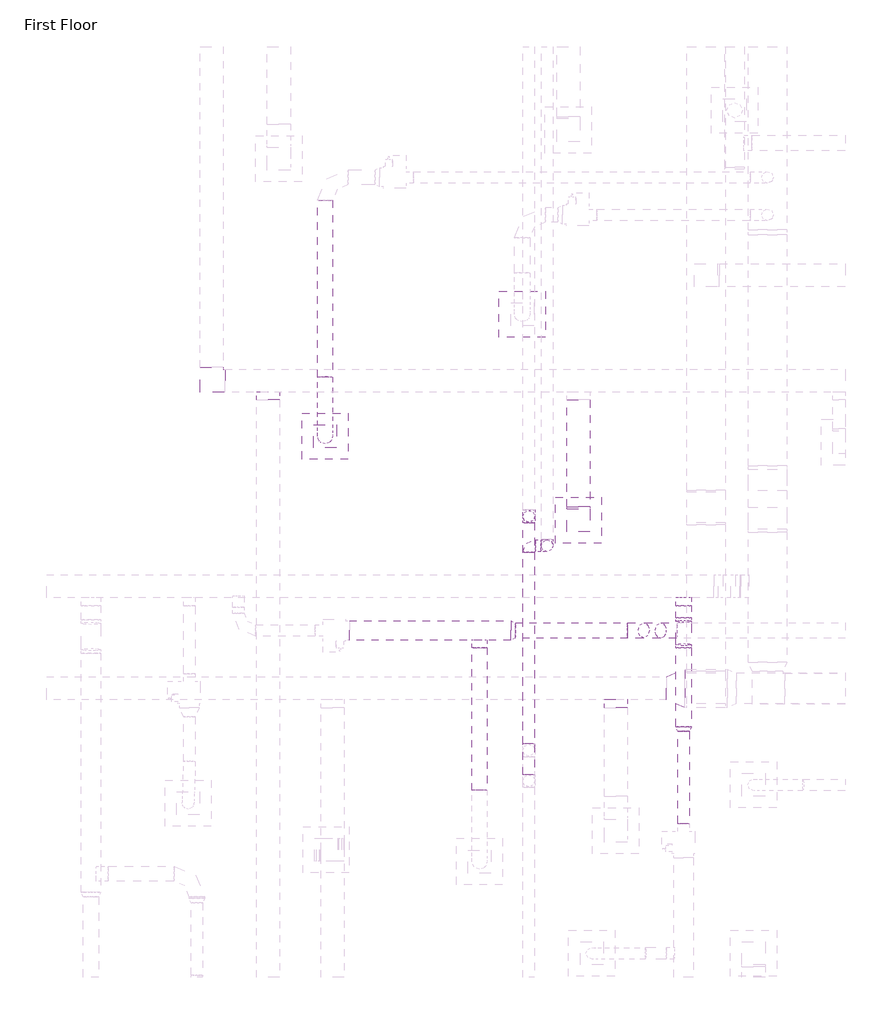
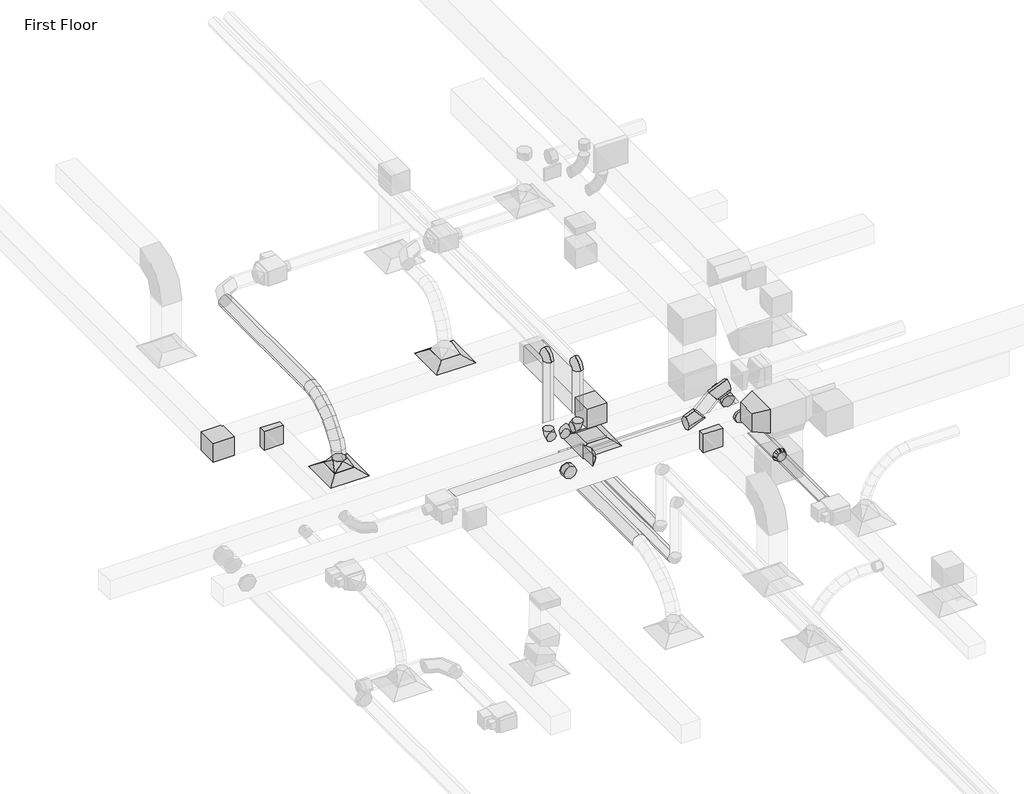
# One storey, part 6 of 61: 14 duct fittings, 12 duct segments, 5 pipe fittings, 5 pipe segments, 3 air terminals.
"""IFC4 building model written with IfcOpenShell, lengths in millimetres."""

from ifc_helpers import new_model, si_unit, point, frame, frame_2d, origin, place, context, project, spatial, polyline, circle_curve, ellipse_curve, trimmed, segment, composite_curve, outline, extrude, transform, mapped, element, save
from ifc_brep_helpers import plane_surface, cylinder_surface, advanced_brep
from components import m_exhaust_grill_er_600_x_600_face_300_x_300_connection_ff221211, m_rectangular_elbow_mitered_standard_8eee5933, m_rectangular_takeoff_standard_b44bfa45, m_rectangular_transition_angle_45_degree_dad80b37, m_rectangular_to_round_transition_angle_45_degree_9bcfcd89, m_rectangular_to_round_transition_angle_45_degree_60daae35, m_round_elbow_1_5_d_f3829448, m_round_elbow_1_5_d_c1d831fc, m_round_takeoff_standard_8efdd074, m_round_takeoff_standard_9d520736, m_round_transition_angle_45_degree_6d7b59ce, m_elbow_generic_standard_1652de39

model = new_model("IFC4")

# Units and contexts
model_context = context("Model", 3, world=origin())
ifc_project = project(units=[si_unit("LENGTHUNIT", "METRE", prefix="MILLI")], contexts=[model_context])

# Site, building, storey
site = spatial("IfcSite", under=ifc_project)
building = spatial("IfcBuilding", under=site)
storey = spatial("IfcBuildingStorey", under=building, Name="First Floor", Elevation=0.0)

# Air terminals
placement = place(None, origin())
m_exhaust_grill_er_600_x_600_face_300_x_300_connection_shape = m_exhaust_grill_er_600_x_600_face_300_x_300_connection_ff221211(model_context)
element("IfcAirTerminal", 1, ObjectType="M_Exhaust Grill : ER-600 x 600 Face 300 x 300 Connection", at=placement, inside=storey, context=model_context, shape_type="MappedRepresentation", body=[
    mapped(m_exhaust_grill_er_600_x_600_face_300_x_300_connection_shape, transform((-41527.8542363, 12720.8054051, 2680.0), x_axis=(1.0, 0.0, 0.0), y_axis=(0.0, 1.0, 0.0), z_axis=(0.0, 0.0, 1.0))),
])
element("IfcAirTerminal", 2, ObjectType="M_Supply Diffuser : SD-600 x 600 Face 300 x 300 Connection", at=placement, inside=storey, context=model_context, shape_type="MappedRepresentation", body=[
    mapped(m_exhaust_grill_er_600_x_600_face_300_x_300_connection_shape, transform((-44824.0, 13815.0, 2680.0), x_axis=(1.0, 0.0, 0.0), y_axis=(0.0, 1.0, 0.0), z_axis=(0.0, 0.0, 1.0))),
])
element("IfcAirTerminal", 3, ObjectType="M_Supply Diffuser : SD-600 x 600 Face 300 x 300 Connection", at=placement, inside=storey, context=model_context, shape_type="MappedRepresentation", body=[
    mapped(m_exhaust_grill_er_600_x_600_face_300_x_300_connection_shape, transform((-42258.150392, 15399.5611412, 2680.0), x_axis=(1.0, 0.0, 0.0), y_axis=(0.0, 1.0, 0.0), z_axis=(0.0, 0.0, 1.0))),
])

# Duct fittings
m_rectangular_elbow_mitered_standard_shape = m_rectangular_elbow_mitered_standard_8eee5933(model_context)
element("IfcDuctFitting", 4, ObjectType="M_Rectangular Elbow - Mitered : Standard", at=placement, inside=storey, context=model_context, shape_type="MappedRepresentation", body=[
    mapped(m_rectangular_elbow_mitered_standard_shape, transform((-41527.8542363, 12720.8054051, 3200.0), x_axis=(0.0, 0.0, 1.0), y_axis=(0.0, 1.0, 0.0), z_axis=(-1.0, 0.0, 0.0))),
])
element("IfcDuctFitting", 5, ObjectType="M_Rectangular Elbow - Mitered : Standard", at=placement, inside=storey, context=model_context, shape_type="MappedRepresentation", body=[
    mapped(m_rectangular_elbow_mitered_standard_shape, transform((-46297.5612377, 14534.3952, 3200.0), x_axis=(0.0, -1.0, 0.0), y_axis=(1.0, 0.0, 0.0), z_axis=(0.0, 0.0, 1.0))),
])
m_rectangular_takeoff_standard_shape = m_rectangular_takeoff_standard_b44bfa45(model_context)
element("IfcDuctFitting", 6, ObjectType="M_Rectangular Takeoff : Standard", at=placement, inside=storey, context=model_context, shape_type="MappedRepresentation", body=[
    mapped(m_rectangular_takeoff_standard_shape, transform((-41042.2989734, 10384.5124787, 4000.0), x_axis=(0.0, -1.0, 0.0), y_axis=(-1.0, 0.0, 0.0), z_axis=(0.0, 0.0, -1.0))),
])
element("IfcDuctFitting", 7, ObjectType="M_Rectangular Takeoff : Standard", at=placement, inside=storey, context=model_context, shape_type="MappedRepresentation", body=[
    mapped(m_rectangular_takeoff_standard_shape, transform((-45565.5775939, 14384.3952, 3200.0), x_axis=(0.0, -1.0, 0.0), y_axis=(-1.0, 0.0, 0.0), z_axis=(0.0, 0.0, -1.0))),
])
m_rectangular_transition_angle_45_degree_shape = m_rectangular_transition_angle_45_degree_dad80b37(model_context)
element("IfcDuctFitting", 8, ObjectType="M_Rectangular Transition - Angle : 45 Degree", at=placement, inside=storey, context=model_context, shape_type="MappedRepresentation", body=[
    mapped(m_rectangular_transition_angle_45_degree_shape, transform((-40383.8409124, 10534.5124787, 4000.0), x_axis=(1.0, 0.0, 0.0), y_axis=(0.0, 1.0, 0.0), z_axis=(0.0, 0.0, 1.0))),
])
m_rectangular_to_round_transition_angle_45_degree_shape = m_rectangular_to_round_transition_angle_45_degree_9bcfcd89(model_context)
element("IfcDuctFitting", 9, ObjectType="M_Rectangular to Round Transition - Angle : 45 Degree", at=placement, inside=storey, context=model_context, shape_type="MappedRepresentation", body=[
    mapped(m_rectangular_to_round_transition_angle_45_degree_shape, transform((-42407.5815651, 11288.3243958, 3619.1), x_axis=(1.0, 0.0, 0.0), y_axis=(0.0, 1.0, 0.0), z_axis=(0.0, 0.0, 1.0))),
])
m_rectangular_to_round_transition_angle_45_degree_2_shape = m_rectangular_to_round_transition_angle_45_degree_60daae35(model_context)
element("IfcDuctFitting", 10, ObjectType="M_Rectangular to Round Transition - Angle : 45 Degree", at=placement, inside=storey, context=model_context, shape_type="MappedRepresentation", body=[
    mapped(m_rectangular_to_round_transition_angle_45_degree_2_shape, transform((-44824.0, 13815.0, 2781.6), x_axis=(0.0, 0.0, 1.0), y_axis=(1.0, 0.0, 0.0), z_axis=(0.0, 1.0, 0.0))),
])
m_round_elbow_1_5_d_shape = m_round_elbow_1_5_d_f3829448(model_context)
element("IfcDuctFitting", 11, ObjectType="M_Round Elbow : 1.5 D", at=placement, inside=storey, context=model_context, shape_type="MappedRepresentation", body=[
    mapped(m_round_elbow_1_5_d_shape, transform((-40765.5775939, 11288.3243958, 3619.1), x_axis=(1.0, 0.0, 0.0), y_axis=(0.0, 0.0, 1.0), z_axis=(0.0, -1.0, 0.0))),
])
element("IfcDuctFitting", 12, ObjectType="M_Round Elbow : 1.5 D", at=placement, inside=storey, context=model_context, shape_type="MappedRepresentation", body=[
    mapped(m_round_elbow_1_5_d_shape, transform((-40369.5977964, 11288.3243958, 4015.0797975), x_axis=(0.7071067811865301, 0.0, 0.7071067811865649), y_axis=(0.7071067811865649, 0.0, -0.7071067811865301), z_axis=(0.0, 1.0, 0.0))),
])
m_round_elbow_1_5_d_2_shape = m_round_elbow_1_5_d_c1d831fc(model_context)
element("IfcDuctFitting", 13, ObjectType="M_Round Elbow : 1.5 D", at=placement, inside=storey, context=model_context, shape_type="MappedRepresentation", body=[
    mapped(m_round_elbow_1_5_d_2_shape, transform((-40158.3711613, 11429.0724101, 3659.5997023), x_axis=(0.0, -0.9999999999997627, -6.888849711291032e-07), y_axis=(0.0, 6.888849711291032e-07, -0.9999999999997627), z_axis=(1.0, 0.0, 0.0))),
])
element("IfcDuctFitting", 14, ObjectType="M_Round Elbow : 1.5 D", at=placement, inside=storey, context=model_context, shape_type="MappedRepresentation", body=[
    mapped(m_round_elbow_1_5_d_2_shape, transform((-40158.3711613, 11082.6622375, 3609.4994637), x_axis=(0.0, -0.9897027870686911, -0.1431376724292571), y_axis=(0.0, -0.1431376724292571, 0.9897027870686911), z_axis=(-1.0, 0.0, 0.0))),
])
m_round_takeoff_standard_shape = m_round_takeoff_standard_8efdd074(model_context)
element("IfcDuctFitting", 15, ObjectType="M_Round Takeoff : Standard", at=placement, inside=storey, context=model_context, shape_type="MappedRepresentation", body=[
    mapped(m_round_takeoff_standard_shape, transform((-42815.0807462, 11163.3243958, 3619.1), x_axis=(0.0, -1.0, 0.0), y_axis=(-1.0, 0.0, 0.0), z_axis=(0.0, 0.0, -1.0))),
])
m_round_takeoff_standard_2_shape = m_round_takeoff_standard_9d520736(model_context)
element("IfcDuctFitting", 16, ObjectType="M_Round Takeoff : Standard", at=placement, inside=storey, context=model_context, shape_type="MappedRepresentation", body=[
    mapped(m_round_takeoff_standard_2_shape, transform((-40158.3711613, 11711.1885196, 3659.5998967), x_axis=(0.0, -0.9999999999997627, -6.888849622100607e-07), y_axis=(-1.0, 0.0, 0.0), z_axis=(0.0, 6.88884951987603e-07, -0.9999999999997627))),
])
m_round_transition_angle_45_degree_shape = m_round_transition_angle_45_degree_6d7b59ce(model_context)
element("IfcDuctFitting", 17, ObjectType="M_Round Transition - Angle : 45 Degree", at=placement, inside=storey, context=model_context, shape_type="MappedRepresentation", body=[
    mapped(m_round_transition_angle_45_degree_shape, transform((-40158.3711613, 10035.9158249, 3609.4987426), x_axis=(0.0, -0.9999999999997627, -6.888849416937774e-07), y_axis=(1.0, 0.0, 0.0), z_axis=(0.0, -6.888849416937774e-07, 0.9999999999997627))),
])

# Duct segments
element("IfcDuctSegment", 18, ObjectType="Flex - Round", at=placement, inside=storey, context=model_context, shape_type="AdvancedBrep", body=[
    advanced_brep(
    [(-44724.0, 14579.9275903, 3619.1), (-44824.0, 14592.1978985, 3519.8556574), (-44924.0, 14579.9275903, 3619.1), (-44824.0, 14567.6572821, 3718.3443426), (-44724.0, 14446.7354708, 3602.6324784), (-44824.0, 14469.50894, 3504.6867189), (-44924.0, 14446.7354708, 3602.6324784), (-44824.0, 14423.9620016, 3700.5782379), (-44724.0, 13815.0, 2902.3106781), (-44824.0, 13715.984437, 2916.3077595), (-44924.0, 13815.0, 2902.3106781), (-44824.0, 13914.015563, 2888.3135968), (-44724.0, 14312.9925957, 3556.2400213), (-44824.0, 14354.0605306, 3464.6402089), (-44924.0, 14312.9925957, 3556.2400213), (-44824.0, 14271.9246608, 3647.8398337), (-44724.0, 14184.3423672, 3484.4377903), (-44824.0, 14239.9541496, 3400.9551861), (-44924.0, 14184.3423672, 3484.4377903), (-44824.0, 14128.7305848, 3567.9203944), (-44724.0, 14066.4281875, 3391.7409467), (-44824.0, 14134.3342891, 3317.9233768), (-44924.0, 14066.4281875, 3391.7409467), (-44824.0, 13998.5220859, 3465.5585166), (-44724.0, 13964.8934587, 3282.6646522), (-44824.0, 14043.8265455, 3220.6931049), (-44924.0, 13964.8934587, 3282.6646522), (-44824.0, 13885.9603719, 3344.6361996), (-44724.0, 13885.3815831, 3161.7240683), (-44824.0, 13974.3839452, 3115.0682713), (-44924.0, 13885.3815831, 3161.7240683), (-44824.0, 13796.379221, 3208.3798653), (-44724.0, 13833.5359628, 3033.4343564), (-44824.0, 13930.8379942, 3007.3157266), (-44924.0, 13833.5359628, 3033.4343564), (-44824.0, 13736.2339315, 3059.5529862)],
    [
        (0, 1, circle_curve(frame((-44824.0, 14579.9275903, 3619.1), z_axis=(0.0, 0.9924434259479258, 0.12270308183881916), x_axis=(1.0, 0.0, 0.0)), 100.0)),
        (1, 2, circle_curve(frame((-44824.0, 14579.9275903, 3619.1), z_axis=(0.0, 0.9924434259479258, 0.12270308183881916), x_axis=(1.0, 0.0, 0.0)), 100.0)),
        (2, 3, circle_curve(frame((-44824.0, 14579.9275903, 3619.1), z_axis=(0.0, 0.9924434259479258, 0.12270308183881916), x_axis=(1.0, 0.0, 0.0)), 100.0)),
        (3, 0, circle_curve(frame((-44824.0, 14579.9275903, 3619.1), z_axis=(0.0, 0.9924434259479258, 0.12270308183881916), x_axis=(1.0, 0.0, 0.0)), 100.0)),
        (0, 4),
        (4, 5, ellipse_curve(frame((-44824.0, 14446.7354708, 3602.6324784), z_axis=(0.0, 0.9740181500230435, 0.22646996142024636), x_axis=(0.0, 0.2264699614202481, -0.9740181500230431)), 100.5584542, 100.0)),
        (5, 1),
        (5, 6, ellipse_curve(frame((-44824.0, 14446.7354708, 3602.6324784), z_axis=(0.0, 0.9740181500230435, 0.22646996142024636), x_axis=(0.0, 0.2264699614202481, -0.9740181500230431)), 100.5584542, 100.0)),
        (6, 2),
        (6, 7, ellipse_curve(frame((-44824.0, 14446.7354708, 3602.6324784), z_axis=(0.0, 0.9740181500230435, 0.22646996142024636), x_axis=(0.0, 0.2264699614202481, -0.9740181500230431)), 100.5584542, 100.0)),
        (7, 3),
        (7, 4, ellipse_curve(frame((-44824.0, 14446.7354708, 3602.6324784), z_axis=(0.0, 0.9740181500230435, 0.22646996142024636), x_axis=(0.0, 0.2264699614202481, -0.9740181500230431)), 100.5584542, 100.0)),
        (8, 9, circle_curve(frame((-44824.0, 13815.0, 2902.3106781), z_axis=(0.0, -0.13997081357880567, -0.9901556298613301), x_axis=(1.0, 0.0, 0.0)), 100.0)),
        (9, 10, circle_curve(frame((-44824.0, 13815.0, 2902.3106781), z_axis=(0.0, -0.13997081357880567, -0.9901556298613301), x_axis=(1.0, 0.0, 0.0)), 100.0)),
        (10, 11, circle_curve(frame((-44824.0, 13815.0, 2902.3106781), z_axis=(0.0, -0.13997081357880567, -0.9901556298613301), x_axis=(1.0, 0.0, 0.0)), 100.0)),
        (11, 8, circle_curve(frame((-44824.0, 13815.0, 2902.3106781), z_axis=(0.0, -0.13997081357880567, -0.9901556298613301), x_axis=(1.0, 0.0, 0.0)), 100.0)),
        (4, 12),
        (12, 13, ellipse_curve(frame((-44824.0, 14312.9925957, 3556.2400213), z_axis=(0.0, 0.912487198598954, 0.4091052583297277), x_axis=(0.0, 0.40910525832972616, -0.9124871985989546)), 100.3847643, 100.0)),
        (13, 5),
        (13, 14, ellipse_curve(frame((-44824.0, 14312.9925957, 3556.2400213), z_axis=(0.0, 0.912487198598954, 0.4091052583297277), x_axis=(0.0, 0.40910525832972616, -0.9124871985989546)), 100.3847643, 100.0)),
        (14, 6),
        (14, 15, ellipse_curve(frame((-44824.0, 14312.9925957, 3556.2400213), z_axis=(0.0, 0.912487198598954, 0.4091052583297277), x_axis=(0.0, 0.40910525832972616, -0.9124871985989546)), 100.3847643, 100.0)),
        (15, 7),
        (15, 12, ellipse_curve(frame((-44824.0, 14312.9925957, 3556.2400213), z_axis=(0.0, 0.912487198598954, 0.4091052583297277), x_axis=(0.0, 0.40910525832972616, -0.9124871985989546)), 100.3847643, 100.0)),
        (12, 16),
        (16, 17, ellipse_curve(frame((-44824.0, 14184.3423672, 3484.4377903), z_axis=(0.0, 0.8322494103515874, 0.5544014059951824), x_axis=(0.0, 0.5544014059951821, -0.8322494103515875)), 100.3095984, 100.0)),
        (17, 13),
        (17, 18, ellipse_curve(frame((-44824.0, 14184.3423672, 3484.4377903), z_axis=(0.0, 0.8322494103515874, 0.5544014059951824), x_axis=(0.0, 0.5544014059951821, -0.8322494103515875)), 100.3095984, 100.0)),
        (18, 14),
        (18, 19, ellipse_curve(frame((-44824.0, 14184.3423672, 3484.4377903), z_axis=(0.0, 0.8322494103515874, 0.5544014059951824), x_axis=(0.0, 0.5544014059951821, -0.8322494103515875)), 100.3095984, 100.0)),
        (19, 15),
        (19, 16, ellipse_curve(frame((-44824.0, 14184.3423672, 3484.4377903), z_axis=(0.0, 0.8322494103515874, 0.5544014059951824), x_axis=(0.0, 0.5544014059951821, -0.8322494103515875)), 100.3095984, 100.0)),
        (16, 20),
        (20, 21, ellipse_curve(frame((-44824.0, 14066.4281875, 3391.7409467), z_axis=(0.0, 0.7359611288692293, 0.6770237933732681), x_axis=(0.0, 0.6770237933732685, -0.7359611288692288)), 100.3009086, 100.0)),
        (21, 17),
        (21, 22, ellipse_curve(frame((-44824.0, 14066.4281875, 3391.7409467), z_axis=(0.0, 0.7359611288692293, 0.6770237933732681), x_axis=(0.0, 0.6770237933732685, -0.7359611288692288)), 100.3009086, 100.0)),
        (22, 18),
        (22, 23, ellipse_curve(frame((-44824.0, 14066.4281875, 3391.7409467), z_axis=(0.0, 0.7359611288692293, 0.6770237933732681), x_axis=(0.0, 0.6770237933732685, -0.7359611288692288)), 100.3009086, 100.0)),
        (23, 19),
        (23, 20, ellipse_curve(frame((-44824.0, 14066.4281875, 3391.7409467), z_axis=(0.0, 0.7359611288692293, 0.6770237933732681), x_axis=(0.0, 0.6770237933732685, -0.7359611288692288)), 100.3009086, 100.0)),
        (20, 24),
        (24, 25, ellipse_curve(frame((-44824.0, 13964.8934587, 3282.6646522), z_axis=(0.0, 0.6175300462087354, 0.7865472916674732), x_axis=(0.0, 0.7865472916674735, -0.6175300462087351)), 100.3538982, 100.0)),
        (25, 21),
        (25, 26, ellipse_curve(frame((-44824.0, 13964.8934587, 3282.6646522), z_axis=(0.0, 0.6175300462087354, 0.7865472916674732), x_axis=(0.0, 0.7865472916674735, -0.6175300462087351)), 100.3538982, 100.0)),
        (26, 22),
        (26, 27, ellipse_curve(frame((-44824.0, 13964.8934587, 3282.6646522), z_axis=(0.0, 0.6175300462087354, 0.7865472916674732), x_axis=(0.0, 0.7865472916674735, -0.6175300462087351)), 100.3538982, 100.0)),
        (27, 23),
        (27, 24, ellipse_curve(frame((-44824.0, 13964.8934587, 3282.6646522), z_axis=(0.0, 0.6175300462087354, 0.7865472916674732), x_axis=(0.0, 0.7865472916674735, -0.6175300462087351)), 100.3538982, 100.0)),
        (24, 28),
        (28, 29, ellipse_curve(frame((-44824.0, 13885.3815831, 3161.7240683), z_axis=(0.0, 0.4642842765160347, 0.8856862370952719), x_axis=(0.0, 0.8856862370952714, -0.4642842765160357)), 100.4897202, 100.0)),
        (29, 25),
        (29, 30, ellipse_curve(frame((-44824.0, 13885.3815831, 3161.7240683), z_axis=(0.0, 0.4642842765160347, 0.8856862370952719), x_axis=(0.0, 0.8856862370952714, -0.4642842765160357)), 100.4897202, 100.0)),
        (30, 26),
        (30, 31, ellipse_curve(frame((-44824.0, 13885.3815831, 3161.7240683), z_axis=(0.0, 0.4642842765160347, 0.8856862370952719), x_axis=(0.0, 0.8856862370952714, -0.4642842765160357)), 100.4897202, 100.0)),
        (31, 27),
        (31, 28, ellipse_curve(frame((-44824.0, 13885.3815831, 3161.7240683), z_axis=(0.0, 0.4642842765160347, 0.8856862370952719), x_axis=(0.0, 0.8856862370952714, -0.4642842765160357)), 100.4897202, 100.0)),
        (28, 32),
        (32, 33, ellipse_curve(frame((-44824.0, 13833.5359628, 3033.4343564), z_axis=(0.0, 0.2592508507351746, 0.9658100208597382), x_axis=(0.0, 0.9658100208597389, -0.2592508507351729)), 100.7465539, 100.0)),
        (33, 29),
        (33, 34, ellipse_curve(frame((-44824.0, 13833.5359628, 3033.4343564), z_axis=(0.0, 0.2592508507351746, 0.9658100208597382), x_axis=(0.0, 0.9658100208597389, -0.2592508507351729)), 100.7465539, 100.0)),
        (34, 30),
        (34, 35, ellipse_curve(frame((-44824.0, 13833.5359628, 3033.4343564), z_axis=(0.0, 0.2592508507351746, 0.9658100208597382), x_axis=(0.0, 0.9658100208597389, -0.2592508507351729)), 100.7465539, 100.0)),
        (35, 31),
        (35, 32, ellipse_curve(frame((-44824.0, 13833.5359628, 3033.4343564), z_axis=(0.0, 0.2592508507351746, 0.9658100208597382), x_axis=(0.0, 0.9658100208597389, -0.2592508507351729)), 100.7465539, 100.0)),
        (32, 8),
        (11, 33),
        (10, 34),
        (9, 35),
    ],
    [
        plane_surface(frame((-44824.0, 14592.1978985, 3519.8556574), z_axis=(0.0, 0.9924434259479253, 0.1227030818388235), x_axis=(1.0, 0.0, 0.0))),
        cylinder_surface(frame((-44824.0, 14579.9275903, 3619.1), z_axis=(0.0, 0.9924434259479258, 0.12270308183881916), x_axis=(1.0, 0.0, 0.0)), 100.0),
        plane_surface(frame((-44824.0, 13914.015563, 2888.3135968), z_axis=(0.0, -0.13997081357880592, -0.99015562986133), x_axis=(1.0, 0.0, 0.0))),
        cylinder_surface(frame((-44824.0, 14446.7354708, 3602.6324784), z_axis=(0.0, 0.9447743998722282, 0.3277214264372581), x_axis=(1.0, 0.0, 0.0)), 100.0),
        cylinder_surface(frame((-44824.0, 14312.9925957, 3556.2400213), z_axis=(0.0, 0.8732050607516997, 0.48735297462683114), x_axis=(1.0, 0.0, 0.0)), 100.0),
        cylinder_surface(frame((-44824.0, 14184.3423672, 3484.4377903), z_axis=(0.0, 0.7861564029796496, 0.618027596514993), x_axis=(1.0, 0.0, 0.0)), 100.0),
        cylinder_surface(frame((-44824.0, 14066.4281875, 3391.7409467), z_axis=(0.0, 0.6813500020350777, 0.7319577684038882), x_axis=(1.0, 0.0, 0.0)), 100.0),
        cylinder_surface(frame((-44824.0, 13964.8934587, 3282.6646522), z_axis=(0.0, 0.5493546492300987, 0.8355892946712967), x_axis=(1.0, 0.0, 0.0)), 100.0),
        cylinder_surface(frame((-44824.0, 13885.3815831, 3161.7240683), z_axis=(0.0, 0.3746886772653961, 0.9271506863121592), x_axis=(1.0, 0.0, 0.0)), 100.0),
        cylinder_surface(frame((-44824.0, 13833.5359628, 3033.4343564), z_axis=(0.0, 0.13997081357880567, 0.9901556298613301), x_axis=(1.0, 0.0, 0.0)), 100.0),
    ],
    [
        (0, [[1, 2, 3, 4]]),
        (1, [[-1, 5, 6, 7]]),
        (1, [[-2, -7, 8, 9]]),
        (1, [[-3, -9, 10, 11]]),
        (1, [[-4, -11, 12, -5]]),
        (2, [[13, 14, 15, 16]]),
        (3, [[-6, 17, 18, 19]]),
        (3, [[-8, -19, 20, 21]]),
        (3, [[-10, -21, 22, 23]]),
        (3, [[-12, -23, 24, -17]]),
        (4, [[-18, 25, 26, 27]]),
        (4, [[-20, -27, 28, 29]]),
        (4, [[-22, -29, 30, 31]]),
        (4, [[-24, -31, 32, -25]]),
        (5, [[-26, 33, 34, 35]]),
        (5, [[-28, -35, 36, 37]]),
        (5, [[-30, -37, 38, 39]]),
        (5, [[-32, -39, 40, -33]]),
        (6, [[-34, 41, 42, 43]]),
        (6, [[-36, -43, 44, 45]]),
        (6, [[-38, -45, 46, 47]]),
        (6, [[-40, -47, 48, -41]]),
        (7, [[-42, 49, 50, 51]]),
        (7, [[-44, -51, 52, 53]]),
        (7, [[-46, -53, 54, 55]]),
        (7, [[-48, -55, 56, -49]]),
        (8, [[-50, 57, 58, 59]]),
        (8, [[-52, -59, 60, 61]]),
        (8, [[-54, -61, 62, 63]]),
        (8, [[-56, -63, 64, -57]]),
        (9, [[-58, 65, -16, 66]]),
        (9, [[-60, -66, -15, 67]]),
        (9, [[-62, -67, -14, 68]]),
        (9, [[-64, -68, -13, -65]]),
    ],
),
])
element("IfcDuctSegment", 19, ObjectType="Mitered Elbows / Taps", at=placement, inside=storey, context=model_context, shape_type="SweptSolid", body=[
    extrude(outline(polyline([(-41677.8542363, 14284.3952), (-41377.8542363, 14284.3952), (-41377.8542363, 12895.8054051), (-41677.8542363, 12895.8054051), (-41677.8542363, 14284.3952)])), frame((0.0, 0.0, 3050.0), z_axis=(0.0, 0.0, 1.0), x_axis=(1.0, 0.0, 0.0)), (0.0, 0.0, 1.0), 300.0),
])
element("IfcDuctSegment", 20, ObjectType="Mitered Elbows / Taps", at=placement, inside=storey, context=model_context, shape_type="SweptSolid", body=[
    extrude(outline(polyline([(-41677.8542363, 12870.8054051), (-41377.8542363, 12870.8054051), (-41377.8542363, 12570.8054051), (-41677.8542363, 12570.8054051), (-41677.8542363, 12870.8054051)])), frame((0.0, 0.0, 2781.6), z_axis=(0.0, 0.0, 1.0), x_axis=(1.0, 0.0, 0.0)), (0.0, 0.0, 1.0), 243.4),
])
element("IfcDuctSegment", 21, ObjectType="Radius Elbows / Taps", at=placement, inside=storey, context=model_context, shape_type="SweptSolid", body=[
    extrude(outline(polyline([(-44507.5815651, 11163.3243958), (-44507.5815651, 11413.3243958), (-42407.5815651, 11413.3243958), (-42407.5815651, 11163.3243958), (-44507.5815651, 11163.3243958)])), frame((0.0, 0.0, 3519.1), z_axis=(0.0, 0.0, 1.0), x_axis=(1.0, 0.0, 0.0)), (0.0, 0.0, 1.0), 200.0),
])
element("IfcDuctSegment", 22, ObjectType="Taps", at=placement, inside=storey, context=model_context, shape_type="SweptSolid", body=[
    extrude(outline(composite_curve([segment(trimmed(circle_curve(frame_2d((3609.4978744, -40158.3711613)), 75.0), [point((3609.4978744, -40083.3711613))], [point((3684.4978744, -40158.3711613))], False, "CARTESIAN"), True, "CONTINUOUS"), segment(trimmed(circle_curve(frame_2d((3609.4978744, -40158.3711613)), 75.0), [point((3684.4978744, -40158.3711613))], [point((3609.4978744, -40233.3711613))], False, "CARTESIAN"), True, "CONTINUOUS"), segment(trimmed(circle_curve(frame_2d((3609.4978744, -40158.3711613)), 75.0), [point((3609.4978744, -40233.3711613))], [point((3534.4978744, -40158.3711613))], False, "CARTESIAN"), True, "CONTINUOUS"), segment(trimmed(circle_curve(frame_2d((3609.4978744, -40158.3711613)), 75.0), [point((3534.4978744, -40158.3711613))], [point((3609.4978744, -40083.3711613))], False, "CARTESIAN"), True, "CONTINUOUS")], self_intersect=False)), frame((0.0, 8775.5604859, 0.0), z_axis=(0.0, 1.0, 0.0), x_axis=(0.0, 0.0, 1.0)), (0.0, 0.0, 1.0), 1199.9999999),
])
element("IfcDuctSegment", 23, ObjectType="Taps", at=placement, inside=storey, context=model_context, shape_type="SweptSolid", body=[
    extrude(outline(composite_curve([segment(trimmed(circle_curve(frame_2d((3609.4994488, -40158.3711613)), 100.0), [point((3609.4994488, -40258.3711613))], [point((3509.4994488, -40158.3711613))], False, "CARTESIAN"), True, "CONTINUOUS"), segment(trimmed(circle_curve(frame_2d((3609.4994488, -40158.3711613)), 100.0), [point((3509.4994488, -40158.3711613))], [point((3609.4994488, -40058.3711613))], False, "CARTESIAN"), True, "CONTINUOUS"), segment(trimmed(circle_curve(frame_2d((3609.4994488, -40158.3711613)), 100.0), [point((3609.4994488, -40058.3711613))], [point((3709.4994488, -40158.3711613))], False, "CARTESIAN"), True, "CONTINUOUS"), segment(trimmed(circle_curve(frame_2d((3609.4994488, -40158.3711613)), 100.0), [point((3709.4994488, -40158.3711613))], [point((3609.4994488, -40258.3711613))], False, "CARTESIAN"), True, "CONTINUOUS")], self_intersect=False)), frame((0.0, 10035.9158249, 0.0), z_axis=(0.0, 1.0, 0.0), x_axis=(0.0, 0.0, 1.0)), (0.0, 0.0, 1.0), 1025.1647496),
])
element("IfcDuctSegment", 24, ObjectType="Taps", at=placement, inside=storey, context=model_context, shape_type="SweptSolid", body=[
    extrude(outline(composite_curve([segment(trimmed(circle_curve(frame_2d((3659.5998278, -40158.3711613)), 100.0), [point((3659.5998278, -40258.3711613))], [point((3559.5998278, -40158.3711613))], False, "CARTESIAN"), True, "CONTINUOUS"), segment(trimmed(circle_curve(frame_2d((3659.5998278, -40158.3711613)), 100.0), [point((3559.5998278, -40158.3711613))], [point((3659.5998278, -40058.3711613))], False, "CARTESIAN"), True, "CONTINUOUS"), segment(trimmed(circle_curve(frame_2d((3659.5998278, -40158.3711613)), 100.0), [point((3659.5998278, -40058.3711613))], [point((3759.5998278, -40158.3711613))], False, "CARTESIAN"), True, "CONTINUOUS"), segment(trimmed(circle_curve(frame_2d((3659.5998278, -40158.3711613)), 100.0), [point((3759.5998278, -40158.3711613))], [point((3659.5998278, -40258.3711613))], False, "CARTESIAN"), True, "CONTINUOUS")], self_intersect=False)), frame((0.0, 11450.6540731, 0.0), z_axis=(0.0, 1.0, 0.0), x_axis=(0.0, 0.0, 1.0)), (0.0, 0.0, 1.0), 160.5343776),
])
element("IfcDuctSegment", 25, ObjectType="Taps", at=placement, inside=storey, context=model_context, shape_type="SweptSolid", body=[
    extrude(outline(composite_curve([segment(trimmed(circle_curve(frame_2d((0.0, -100.0)), 100.0), [point((-100.0, -100.0))], [point((0.0, 0.0))], False, "CARTESIAN"), True, "CONTINUOUS"), segment(trimmed(circle_curve(frame_2d((0.0, -100.0)), 100.0), [point((0.0, 0.0))], [point((100.0, -100.0))], False, "CARTESIAN"), True, "CONTINUOUS"), segment(trimmed(circle_curve(frame_2d((0.0, -100.0)), 100.0), [point((100.0, -100.0))], [point((0.0, -200.0))], False, "CARTESIAN"), True, "CONTINUOUS"), segment(trimmed(circle_curve(frame_2d((0.0, -100.0)), 100.0), [point((0.0, -200.0))], [point((-100.0, -100.0))], False, "CARTESIAN"), True, "CONTINUOUS")], self_intersect=False)), frame((-40158.3711613, 11118.3354368, 3513.618334), z_axis=(0.0, 0.9897027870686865, 0.14313767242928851), x_axis=(1.0, 0.0, 0.0)), (0.0, 0.0, 1.0), 306.8510188),
])
element("IfcDuctSegment", 26, ObjectType="Taps", at=placement, inside=storey, context=model_context, shape_type="SweptSolid", body=[
    extrude(outline(composite_curve([segment(trimmed(circle_curve(frame_2d((11288.3243958, 3619.1)), 100.0), [point((11188.3243958, 3619.1))], [point((11288.3243958, 3719.1))], False, "CARTESIAN"), True, "CONTINUOUS"), segment(trimmed(circle_curve(frame_2d((11288.3243958, 3619.1)), 100.0), [point((11288.3243958, 3719.1))], [point((11388.3243958, 3619.1))], False, "CARTESIAN"), True, "CONTINUOUS"), segment(trimmed(circle_curve(frame_2d((11288.3243958, 3619.1)), 100.0), [point((11388.3243958, 3619.1))], [point((11288.3243958, 3519.1))], False, "CARTESIAN"), True, "CONTINUOUS"), segment(trimmed(circle_curve(frame_2d((11288.3243958, 3619.1)), 100.0), [point((11288.3243958, 3519.1))], [point((11188.3243958, 3619.1))], False, "CARTESIAN"), True, "CONTINUOUS")], self_intersect=False)), frame((-42347.2262261, 0.0, 0.0), z_axis=(1.0, 0.0, 0.0), x_axis=(0.0, 1.0, 0.0)), (0.0, 0.0, 1.0), 1457.3845635),
])
element("IfcDuctSegment", 27, ObjectType="Taps", at=placement, inside=storey, context=model_context, shape_type="SweptSolid", body=[
    extrude(outline(composite_curve([segment(trimmed(circle_curve(frame_2d((3619.1, -42815.0807462)), 100.0), [point((3619.1, -42915.0807462))], [point((3519.1, -42815.0807462))], False, "CARTESIAN"), True, "CONTINUOUS"), segment(trimmed(circle_curve(frame_2d((3619.1, -42815.0807462)), 100.0), [point((3519.1, -42815.0807462))], [point((3619.1, -42715.0807462))], False, "CARTESIAN"), True, "CONTINUOUS"), segment(trimmed(circle_curve(frame_2d((3619.1, -42815.0807462)), 100.0), [point((3619.1, -42715.0807462))], [point((3719.1, -42815.0807462))], False, "CARTESIAN"), True, "CONTINUOUS"), segment(trimmed(circle_curve(frame_2d((3619.1, -42815.0807462)), 100.0), [point((3719.1, -42815.0807462))], [point((3619.1, -42915.0807462))], False, "CARTESIAN"), True, "CONTINUOUS")], self_intersect=False)), frame((0.0, 9210.3305744, 0.0), z_axis=(0.0, 1.0, 0.0), x_axis=(0.0, 0.0, 1.0)), (0.0, 0.0, 1.0), 1852.9938213),
])
element("IfcDuctSegment", 28, ObjectType="Taps", at=placement, inside=storey, context=model_context, shape_type="SweptSolid", body=[
    extrude(outline(composite_curve([segment(trimmed(circle_curve(frame_2d((0.0, 100.0)), 100.0), [point((0.0, 0.0))], [point((-100.0, 100.0))], False, "CARTESIAN"), True, "CONTINUOUS"), segment(trimmed(circle_curve(frame_2d((0.0, 100.0)), 100.0), [point((-100.0, 100.0))], [point((0.0, 200.0))], False, "CARTESIAN"), True, "CONTINUOUS"), segment(trimmed(circle_curve(frame_2d((0.0, 100.0)), 100.0), [point((0.0, 200.0))], [point((100.0, 100.0))], False, "CARTESIAN"), True, "CONTINUOUS"), segment(trimmed(circle_curve(frame_2d((0.0, 100.0)), 100.0), [point((100.0, 100.0))], [point((0.0, 0.0))], False, "CARTESIAN"), True, "CONTINUOUS")], self_intersect=False)), frame((-40677.7096282, 11188.3243958, 3706.9679656), z_axis=(0.7071067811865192, 0.0, 0.707106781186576), x_axis=(0.707106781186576, 0.0, -0.7071067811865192)), (0.0, 0.0, 1.0), 311.4718626),
])
element("IfcDuctSegment", 29, ObjectType="Taps", at=placement, inside=storey, context=model_context, shape_type="SweptSolid", body=[
    extrude(outline(composite_curve([segment(trimmed(circle_curve(frame_2d((3619.1, -44824.0)), 100.0), [point((3619.1, -44924.0))], [point((3519.1, -44824.0))], False, "CARTESIAN"), True, "CONTINUOUS"), segment(trimmed(circle_curve(frame_2d((3619.1, -44824.0)), 100.0), [point((3519.1, -44824.0))], [point((3619.1, -44724.0))], False, "CARTESIAN"), True, "CONTINUOUS"), segment(trimmed(circle_curve(frame_2d((3619.1, -44824.0)), 100.0), [point((3619.1, -44724.0))], [point((3719.1, -44824.0))], False, "CARTESIAN"), True, "CONTINUOUS"), segment(trimmed(circle_curve(frame_2d((3619.1, -44824.0)), 100.0), [point((3719.1, -44824.0))], [point((3619.1, -44924.0))], False, "CARTESIAN"), True, "CONTINUOUS")], self_intersect=False)), frame((0.0, 14579.9275903, 0.0), z_axis=(0.0, 1.0, 0.0), x_axis=(0.0, 0.0, 1.0)), (0.0, 0.0, 1.0), 2300.0984725),
])

# Pipe fittings
m_elbow_generic_standard_shape = m_elbow_generic_standard_1652de39(model_context)
element("IfcPipeFitting", 30, ObjectType="M_Elbow - Generic : Standard", at=placement, inside=storey, context=model_context, shape_type="MappedRepresentation", body=[
    mapped(m_elbow_generic_standard_shape, transform((-42173.6892157, 12770.3362305, 3000.0), x_axis=(0.0, 1.0, 0.0), y_axis=(0.0, 0.0, 1.0), z_axis=(1.0, 0.0, 0.0))),
])
element("IfcPipeFitting", 31, ObjectType="M_Elbow - Generic : Standard", at=placement, inside=storey, context=model_context, shape_type="MappedRepresentation", body=[
    mapped(m_elbow_generic_standard_shape, transform((-42173.6892157, 12770.3362305, 4300.0), x_axis=(0.0, 0.0, 1.0), y_axis=(0.0, 1.0, 0.0), z_axis=(-1.0, 0.0, 0.0))),
])
element("IfcPipeFitting", 32, ObjectType="M_Elbow - Generic : Standard", at=placement, inside=storey, context=model_context, shape_type="MappedRepresentation", body=[
    mapped(m_elbow_generic_standard_shape, transform((-42173.6892157, 12390.3362305, 3280.0), x_axis=(-1.0, 0.0, 0.0), y_axis=(0.0, -1.0, 0.0), z_axis=(0.0, 0.0, 1.0))),
])
element("IfcPipeFitting", 33, ObjectType="M_Elbow - Generic : Standard", at=placement, inside=storey, context=model_context, shape_type="MappedRepresentation", body=[
    mapped(m_elbow_generic_standard_shape, transform((-41933.6892157, 12390.3362305, 3280.0), x_axis=(1.0, 0.0, 0.0), y_axis=(0.0, 0.0, 1.0), z_axis=(0.0, -1.0, 0.0))),
])
element("IfcPipeFitting", 34, ObjectType="M_Elbow - Generic : Standard", at=placement, inside=storey, context=model_context, shape_type="MappedRepresentation", body=[
    mapped(m_elbow_generic_standard_shape, transform((-41933.6892157, 12390.3362305, 4300.0), x_axis=(0.0, 0.0, 1.0), y_axis=(0.0, 1.0, 0.0), z_axis=(-1.0, 0.0, 0.0))),
])

# Pipe segments
element("IfcPipeSegment", 35, ObjectType="Standard", at=placement, inside=storey, context=model_context, shape_type="SweptSolid", body=[
    extrude(outline(composite_curve([segment(trimmed(circle_curve(frame_2d((3000.0, -42173.6892157)), 76.2), [point((3000.0, -42097.4892157))], [point((3076.2, -42173.6892157))], False, "CARTESIAN"), True, "CONTINUOUS"), segment(trimmed(circle_curve(frame_2d((3000.0, -42173.6892157)), 76.2), [point((3076.2, -42173.6892157))], [point((3000.0, -42249.8892157))], False, "CARTESIAN"), True, "CONTINUOUS"), segment(trimmed(circle_curve(frame_2d((3000.0, -42173.6892157)), 76.2), [point((3000.0, -42249.8892157))], [point((2923.8, -42173.6892157))], False, "CARTESIAN"), True, "CONTINUOUS"), segment(trimmed(circle_curve(frame_2d((3000.0, -42173.6892157)), 76.2), [point((2923.8, -42173.6892157))], [point((3000.0, -42097.4892157))], False, "CARTESIAN"), True, "CONTINUOUS")], self_intersect=False)), frame((0.0, 9414.4737305, 0.0), z_axis=(0.0, 1.0, 0.0), x_axis=(0.0, 0.0, 1.0)), (0.0, 0.0, 1.0), 3271.725),
])
element("IfcPipeSegment", 36, ObjectType="Standard", at=placement, inside=storey, context=model_context, shape_type="SweptSolid", body=[
    extrude(outline(composite_curve([segment(trimmed(circle_curve(frame_2d((-42173.6892157, 12770.3362305)), 76.2), [point((-42249.8892157, 12770.3362305))], [point((-42173.6892157, 12846.5362305))], False, "CARTESIAN"), True, "CONTINUOUS"), segment(trimmed(circle_curve(frame_2d((-42173.6892157, 12770.3362305)), 76.2), [point((-42173.6892157, 12846.5362305))], [point((-42097.4892157, 12770.3362305))], False, "CARTESIAN"), True, "CONTINUOUS"), segment(trimmed(circle_curve(frame_2d((-42173.6892157, 12770.3362305)), 76.2), [point((-42097.4892157, 12770.3362305))], [point((-42173.6892157, 12694.1362305))], False, "CARTESIAN"), True, "CONTINUOUS"), segment(trimmed(circle_curve(frame_2d((-42173.6892157, 12770.3362305)), 76.2), [point((-42173.6892157, 12694.1362305))], [point((-42249.8892157, 12770.3362305))], False, "CARTESIAN"), True, "CONTINUOUS")], self_intersect=False)), frame((0.0, 0.0, 3084.1375), z_axis=(0.0, 0.0, 1.0), x_axis=(1.0, 0.0, 0.0)), (0.0, 0.0, 1.0), 1131.725),
])
element("IfcPipeSegment", 37, ObjectType="Standard", at=placement, inside=storey, context=model_context, shape_type="SweptSolid", body=[
    extrude(outline(composite_curve([segment(trimmed(circle_curve(frame_2d((3280.0, -42173.6892157)), 76.2), [point((3280.0, -42097.4892157))], [point((3356.2, -42173.6892157))], False, "CARTESIAN"), True, "CONTINUOUS"), segment(trimmed(circle_curve(frame_2d((3280.0, -42173.6892157)), 76.2), [point((3356.2, -42173.6892157))], [point((3280.0, -42249.8892157))], False, "CARTESIAN"), True, "CONTINUOUS"), segment(trimmed(circle_curve(frame_2d((3280.0, -42173.6892157)), 76.2), [point((3280.0, -42249.8892157))], [point((3203.8, -42173.6892157))], False, "CARTESIAN"), True, "CONTINUOUS"), segment(trimmed(circle_curve(frame_2d((3280.0, -42173.6892157)), 76.2), [point((3203.8, -42173.6892157))], [point((3280.0, -42097.4892157))], False, "CARTESIAN"), True, "CONTINUOUS")], self_intersect=False)), frame((0.0, 9814.4737305, 0.0), z_axis=(0.0, 1.0, 0.0), x_axis=(0.0, 0.0, 1.0)), (0.0, 0.0, 1.0), 2491.725),
])
element("IfcPipeSegment", 38, ObjectType="Standard", at=placement, inside=storey, context=model_context, shape_type="SweptSolid", body=[
    extrude(outline(composite_curve([segment(trimmed(circle_curve(frame_2d((12390.3362305, 3280.0)), 76.2), [point((12314.1362305, 3280.0))], [point((12390.3362305, 3356.2))], False, "CARTESIAN"), True, "CONTINUOUS"), segment(trimmed(circle_curve(frame_2d((12390.3362305, 3280.0)), 76.2), [point((12390.3362305, 3356.2))], [point((12466.5362305, 3280.0))], False, "CARTESIAN"), True, "CONTINUOUS"), segment(trimmed(circle_curve(frame_2d((12390.3362305, 3280.0)), 76.2), [point((12466.5362305, 3280.0))], [point((12390.3362305, 3203.8))], False, "CARTESIAN"), True, "CONTINUOUS"), segment(trimmed(circle_curve(frame_2d((12390.3362305, 3280.0)), 76.2), [point((12390.3362305, 3203.8))], [point((12314.1362305, 3280.0))], False, "CARTESIAN"), True, "CONTINUOUS")], self_intersect=False)), frame((-42089.5517157, 0.0, 0.0), z_axis=(1.0, 0.0, 0.0), x_axis=(0.0, 1.0, 0.0)), (0.0, 0.0, 1.0), 71.725),
])
element("IfcPipeSegment", 39, ObjectType="Standard", at=placement, inside=storey, context=model_context, shape_type="SweptSolid", body=[
    extrude(outline(composite_curve([segment(trimmed(circle_curve(frame_2d((-41933.6892157, 12390.3362305)), 76.2), [point((-42009.8892157, 12390.3362305))], [point((-41933.6892157, 12466.5362305))], False, "CARTESIAN"), True, "CONTINUOUS"), segment(trimmed(circle_curve(frame_2d((-41933.6892157, 12390.3362305)), 76.2), [point((-41933.6892157, 12466.5362305))], [point((-41857.4892157, 12390.3362305))], False, "CARTESIAN"), True, "CONTINUOUS"), segment(trimmed(circle_curve(frame_2d((-41933.6892157, 12390.3362305)), 76.2), [point((-41857.4892157, 12390.3362305))], [point((-41933.6892157, 12314.1362305))], False, "CARTESIAN"), True, "CONTINUOUS"), segment(trimmed(circle_curve(frame_2d((-41933.6892157, 12390.3362305)), 76.2), [point((-41933.6892157, 12314.1362305))], [point((-42009.8892157, 12390.3362305))], False, "CARTESIAN"), True, "CONTINUOUS")], self_intersect=False)), frame((0.0, 0.0, 3364.1375), z_axis=(0.0, 0.0, 1.0), x_axis=(1.0, 0.0, 0.0)), (0.0, 0.0, 1.0), 851.725),
])

save(model, "model.ifc")
